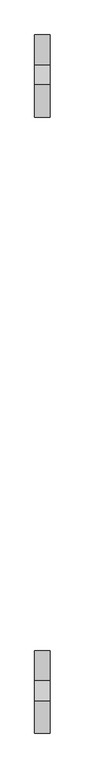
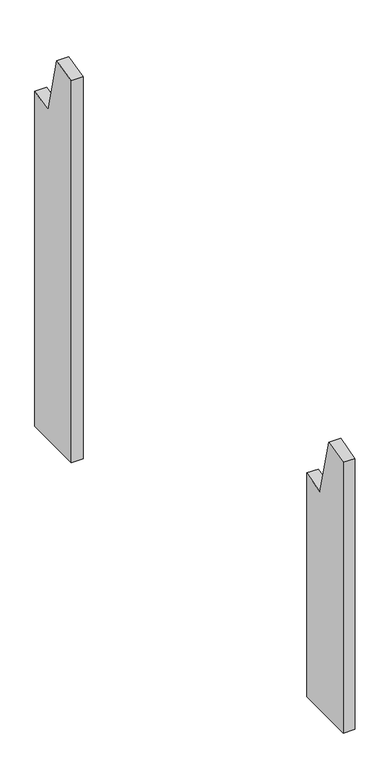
"""IFC4 building model written with IfcOpenShell, lengths in millimetres: proxy geometry, Modelos genéricos 30 : Modelos genéricos 5."""

from ifc_helpers import new_model, si_unit, frame, origin, place, context, project, spatial, polyline, outline, extrude, source, transform, mapped, element, save


def generic_models_994ace6a(model_context):
    return source(origin(), model_context, "Body", "SweptSolid", [
        extrude(outline(polyline([(628.6238165, 3000.0), (468.6238165, 3000.0), (468.6238165, 4023.0972283), (531.6985696, 4038.8235305), (570.4060729, 3883.5762143), (628.6238165, 3898.0915281), (628.6238165, 3000.0)])), frame((-8966.5527533, 0.0, 0.0), z_axis=(1.0, 0.0, 0.0), x_axis=(0.0, 1.0, 0.0)), (0.0, 0.0, 1.0), 30.0),
        extrude(outline(polyline([(-566.3761835, 3000.0), (-726.3761835, 3000.0), (-726.3761835, 3725.1502649), (-663.3014304, 3740.8765671), (-624.5939271, 3585.6292509), (-566.3761835, 3600.1445647), (-566.3761835, 3000.0)])), frame((-8966.5527533, 0.0, 0.0), z_axis=(1.0, 0.0, 0.0), x_axis=(0.0, 1.0, 0.0)), (0.0, 0.0, 1.0), 30.0),
    ])


if __name__ == "__main__":
    model = new_model("IFC4")
    model_context = context("Model", 3, world=origin())
    ifc_project = project(units=[si_unit("LENGTHUNIT", "METRE", prefix="MILLI")], contexts=[model_context])
    site = spatial("IfcSite", under=ifc_project)
    building = spatial("IfcBuilding", under=site)
    placement = place(None, origin())
    generic_models_shape = generic_models_994ace6a(model_context)
    element("IfcBuildingElementProxy", 1, Name="Modelos genéricos 30 : Modelos genéricos 5", ObjectType="Modelos genéricos 30 : Modelos genéricos 5", at=placement, inside=building, context=model_context, shape_type="MappedRepresentation", body=[
        mapped(generic_models_shape, transform((0.0, 0.0, 0.0), x_axis=(1.0, 0.0, 0.0), y_axis=(0.0, 1.0, 0.0), z_axis=(0.0, 0.0, 1.0))),
    ])
    save(model, "model.ifc")
